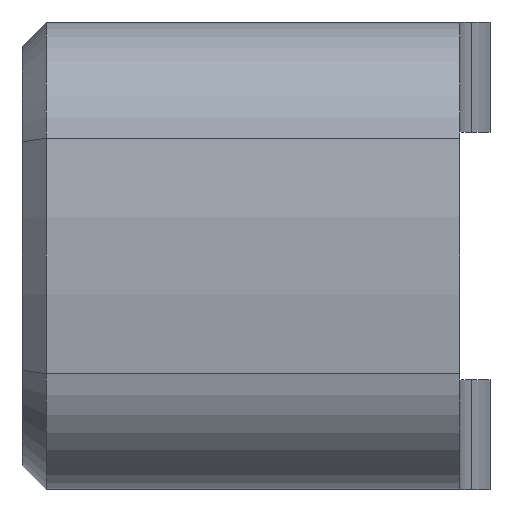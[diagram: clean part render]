
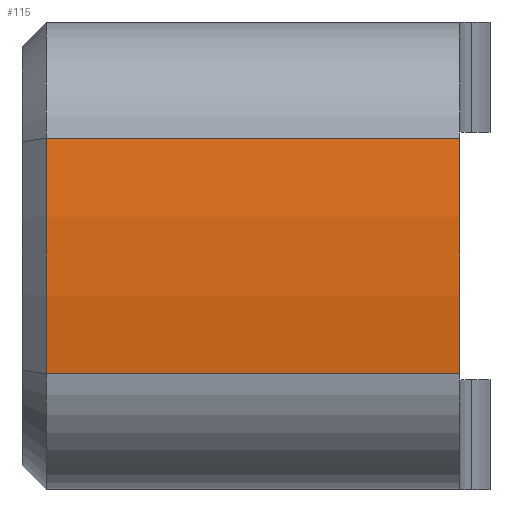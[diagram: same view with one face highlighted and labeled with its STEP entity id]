
A CAD part, left-side view. The second image highlights one B-rep face of the part: STEP entity #115.
In plain terms, the highlighted cylindrical face has radius 27 mm (diameter 54 mm), a partial arc.
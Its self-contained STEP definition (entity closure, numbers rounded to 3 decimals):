
#115 = ADVANCED_FACE( '', ( #222 ), #223, .T. );
#222 = FACE_OUTER_BOUND( '', #360, .T. );
#223 = CYLINDRICAL_SURFACE( '', #361, 27. );
#360 = EDGE_LOOP( '', ( #712, #713, #714, #715 ) );
#361 = AXIS2_PLACEMENT_3D( '', #716, #717, #718 );
#712 = ORIENTED_EDGE( '', *, *, #1005, .F. );
#713 = ORIENTED_EDGE( '', *, *, #969, .T. );
#714 = ORIENTED_EDGE( '', *, *, #1007, .T. );
#715 = ORIENTED_EDGE( '', *, *, #1008, .T. );
#716 = CARTESIAN_POINT( '', ( 0., 14.5, 0. ) );
#717 = DIRECTION( '', ( 0., 1., 0. ) );
#718 = DIRECTION( '', ( 0., 0., -1. ) );
#969 = EDGE_CURVE( '', #1174, #1172, #1175, .F. );
#1005 = EDGE_CURVE( '', #1174, #1232, #1233, .T. );
#1007 = EDGE_CURVE( '', #1172, #1235, #1236, .T. );
#1008 = EDGE_CURVE( '', #1235, #1232, #1237, .T. );
#1172 = VERTEX_POINT( '', #1513 );
#1174 = VERTEX_POINT( '', #1516 );
#1175 = CIRCLE( '', #1517, 27. );
#1232 = VERTEX_POINT( '', #1594 );
#1233 = LINE( '', #1595, #1596 );
#1235 = VERTEX_POINT( '', #1598 );
#1236 = LINE( '', #1599, #1600 );
#1237 = CIRCLE( '', #1601, 27. );
#1513 = CARTESIAN_POINT( '', ( -26.717, 13.7, -3.9 ) );
#1516 = CARTESIAN_POINT( '', ( -26.717, 13.7, 3.9 ) );
#1517 = AXIS2_PLACEMENT_3D( '', #1787, #1788, #1789 );
#1594 = CARTESIAN_POINT( '', ( -26.717, 0., 3.9 ) );
#1595 = CARTESIAN_POINT( '', ( -26.717, 14.5, 3.9 ) );
#1596 = VECTOR( '', #1855, 1000. );
#1598 = CARTESIAN_POINT( '', ( -26.717, 0., -3.9 ) );
#1599 = CARTESIAN_POINT( '', ( -26.717, 14.5, -3.9 ) );
#1600 = VECTOR( '', #1859, 1000. );
#1601 = AXIS2_PLACEMENT_3D( '', #1860, #1861, #1862 );
#1787 = CARTESIAN_POINT( '', ( 0., 13.7, 0. ) );
#1788 = DIRECTION( '', ( 0., 1., 0. ) );
#1789 = DIRECTION( '', ( 0., 0., 1. ) );
#1855 = DIRECTION( '', ( 0., -1., 0. ) );
#1859 = DIRECTION( '', ( 0., -1., 0. ) );
#1860 = CARTESIAN_POINT( '', ( 0., 0., 0. ) );
#1861 = DIRECTION( '', ( 0., 1., 0. ) );
#1862 = DIRECTION( '', ( 1., 0., 0. ) );
